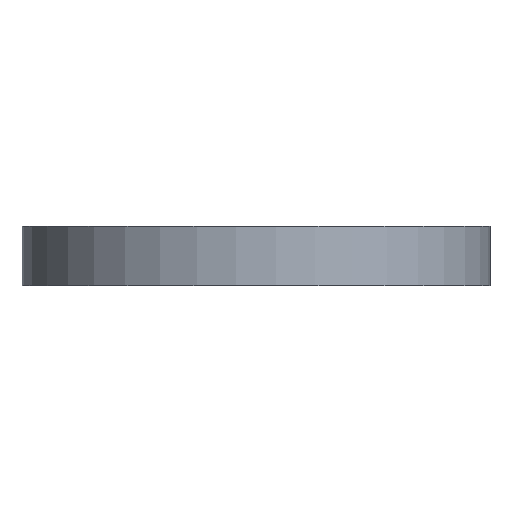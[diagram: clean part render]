
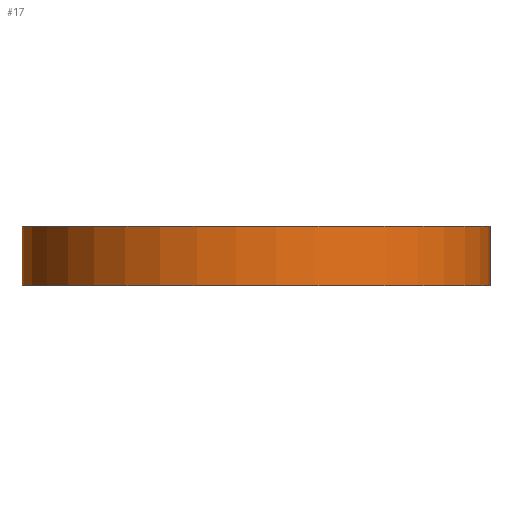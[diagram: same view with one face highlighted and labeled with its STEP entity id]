
A CAD part, left-side view. The second image highlights one B-rep face of the part: STEP entity #17.
In plain terms, the highlighted cylindrical face has radius 23.664 mm (diameter 47.329 mm), a partial arc.
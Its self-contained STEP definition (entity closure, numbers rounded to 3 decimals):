
#17 = ADVANCED_FACE('',(#18),#32,.T.);
#18 = FACE_BOUND('',#19,.F.);
#19 = EDGE_LOOP('',(#20,#55,#84,#112));
#20 = ORIENTED_EDGE('',*,*,#21,.T.);
#21 = EDGE_CURVE('',#22,#24,#26,.T.);
#22 = VERTEX_POINT('',#23);
#23 = CARTESIAN_POINT('',(8.788,21.972,26.));
#24 = VERTEX_POINT('',#25);
#25 = CARTESIAN_POINT('',(8.788,21.972,32.));
#26 = SURFACE_CURVE('',#27,(#31,#43),.PCURVE_S1.);
#27 = LINE('',#28,#29);
#28 = CARTESIAN_POINT('',(8.788,21.972,26.));
#29 = VECTOR('',#30,1.);
#30 = DIRECTION('',(0.,0.,1.));
#31 = PCURVE('',#32,#37);
#32 = CYLINDRICAL_SURFACE('',#33,23.664);
#33 = AXIS2_PLACEMENT_3D('',#34,#35,#36);
#34 = CARTESIAN_POINT('',(0.,0.,26.));
#35 = DIRECTION('',(-0.,-0.,-1.));
#36 = DIRECTION('',(0.371,0.928,-0.));
#37 = DEFINITIONAL_REPRESENTATION('',(#38),#42);
#38 = LINE('',#39,#40);
#39 = CARTESIAN_POINT('',(-0.,0.));
#40 = VECTOR('',#41,1.);
#41 = DIRECTION('',(-0.,-1.));
#42 = ( GEOMETRIC_REPRESENTATION_CONTEXT(2) 
PARAMETRIC_REPRESENTATION_CONTEXT() REPRESENTATION_CONTEXT('2D SPACE',''
  ) );
#43 = PCURVE('',#44,#49);
#44 = PLANE('',#45);
#45 = AXIS2_PLACEMENT_3D('',#46,#47,#48);
#46 = CARTESIAN_POINT('',(50.168,5.421,26.));
#47 = DIRECTION('',(-0.371,-0.928,0.));
#48 = DIRECTION('',(-0.928,0.371,0.));
#49 = DEFINITIONAL_REPRESENTATION('',(#50),#54);
#50 = LINE('',#51,#52);
#51 = CARTESIAN_POINT('',(44.567,0.));
#52 = VECTOR('',#53,1.);
#53 = DIRECTION('',(0.,-1.));
#54 = ( GEOMETRIC_REPRESENTATION_CONTEXT(2) 
PARAMETRIC_REPRESENTATION_CONTEXT() REPRESENTATION_CONTEXT('2D SPACE',''
  ) );
#55 = ORIENTED_EDGE('',*,*,#56,.T.);
#56 = EDGE_CURVE('',#24,#57,#59,.T.);
#57 = VERTEX_POINT('',#58);
#58 = CARTESIAN_POINT('',(8.788,-21.972,32.));
#59 = SURFACE_CURVE('',#60,(#65,#72),.PCURVE_S1.);
#60 = CIRCLE('',#61,23.664);
#61 = AXIS2_PLACEMENT_3D('',#62,#63,#64);
#62 = CARTESIAN_POINT('',(0.,0.,32.));
#63 = DIRECTION('',(0.,0.,1.));
#64 = DIRECTION('',(0.371,0.928,-0.));
#65 = PCURVE('',#32,#66);
#66 = DEFINITIONAL_REPRESENTATION('',(#67),#71);
#67 = LINE('',#68,#69);
#68 = CARTESIAN_POINT('',(-0.,-6.));
#69 = VECTOR('',#70,1.);
#70 = DIRECTION('',(-1.,0.));
#71 = ( GEOMETRIC_REPRESENTATION_CONTEXT(2) 
PARAMETRIC_REPRESENTATION_CONTEXT() REPRESENTATION_CONTEXT('2D SPACE',''
  ) );
#72 = PCURVE('',#73,#78);
#73 = PLANE('',#74);
#74 = AXIS2_PLACEMENT_3D('',#75,#76,#77);
#75 = CARTESIAN_POINT('',(13.296,0.,32.));
#76 = DIRECTION('',(0.,0.,1.));
#77 = DIRECTION('',(1.,0.,-0.));
#78 = DEFINITIONAL_REPRESENTATION('',(#79),#83);
#79 = CIRCLE('',#80,23.664);
#80 = AXIS2_PLACEMENT_2D('',#81,#82);
#81 = CARTESIAN_POINT('',(-13.296,0.));
#82 = DIRECTION('',(0.371,0.928));
#83 = ( GEOMETRIC_REPRESENTATION_CONTEXT(2) 
PARAMETRIC_REPRESENTATION_CONTEXT() REPRESENTATION_CONTEXT('2D SPACE',''
  ) );
#84 = ORIENTED_EDGE('',*,*,#85,.F.);
#85 = EDGE_CURVE('',#86,#57,#88,.T.);
#86 = VERTEX_POINT('',#87);
#87 = CARTESIAN_POINT('',(8.788,-21.972,26.));
#88 = SURFACE_CURVE('',#89,(#93,#100),.PCURVE_S1.);
#89 = LINE('',#90,#91);
#90 = CARTESIAN_POINT('',(8.788,-21.972,26.));
#91 = VECTOR('',#92,1.);
#92 = DIRECTION('',(0.,0.,1.));
#93 = PCURVE('',#32,#94);
#94 = DEFINITIONAL_REPRESENTATION('',(#95),#99);
#95 = LINE('',#96,#97);
#96 = CARTESIAN_POINT('',(-3.903,0.));
#97 = VECTOR('',#98,1.);
#98 = DIRECTION('',(-0.,-1.));
#99 = ( GEOMETRIC_REPRESENTATION_CONTEXT(2) 
PARAMETRIC_REPRESENTATION_CONTEXT() REPRESENTATION_CONTEXT('2D SPACE',''
  ) );
#100 = PCURVE('',#101,#106);
#101 = PLANE('',#102);
#102 = AXIS2_PLACEMENT_3D('',#103,#104,#105);
#103 = CARTESIAN_POINT('',(8.788,-21.972,26.));
#104 = DIRECTION('',(-0.371,0.928,0.));
#105 = DIRECTION('',(0.928,0.371,0.));
#106 = DEFINITIONAL_REPRESENTATION('',(#107),#111);
#107 = LINE('',#108,#109);
#108 = CARTESIAN_POINT('',(0.,0.));
#109 = VECTOR('',#110,1.);
#110 = DIRECTION('',(0.,-1.));
#111 = ( GEOMETRIC_REPRESENTATION_CONTEXT(2) 
PARAMETRIC_REPRESENTATION_CONTEXT() REPRESENTATION_CONTEXT('2D SPACE',''
  ) );
#112 = ORIENTED_EDGE('',*,*,#113,.F.);
#113 = EDGE_CURVE('',#22,#86,#114,.T.);
#114 = SURFACE_CURVE('',#115,(#120,#127),.PCURVE_S1.);
#115 = CIRCLE('',#116,23.664);
#116 = AXIS2_PLACEMENT_3D('',#117,#118,#119);
#117 = CARTESIAN_POINT('',(0.,0.,26.)
  );
#118 = DIRECTION('',(0.,0.,1.));
#119 = DIRECTION('',(0.371,0.928,-0.));
#120 = PCURVE('',#32,#121);
#121 = DEFINITIONAL_REPRESENTATION('',(#122),#126);
#122 = LINE('',#123,#124);
#123 = CARTESIAN_POINT('',(-0.,0.));
#124 = VECTOR('',#125,1.);
#125 = DIRECTION('',(-1.,0.));
#126 = ( GEOMETRIC_REPRESENTATION_CONTEXT(2) 
PARAMETRIC_REPRESENTATION_CONTEXT() REPRESENTATION_CONTEXT('2D SPACE',''
  ) );
#127 = PCURVE('',#128,#133);
#128 = PLANE('',#129);
#129 = AXIS2_PLACEMENT_3D('',#130,#131,#132);
#130 = CARTESIAN_POINT('',(13.296,0.,26.));
#131 = DIRECTION('',(0.,0.,1.));
#132 = DIRECTION('',(1.,0.,-0.));
#133 = DEFINITIONAL_REPRESENTATION('',(#134),#138);
#134 = CIRCLE('',#135,23.664);
#135 = AXIS2_PLACEMENT_2D('',#136,#137);
#136 = CARTESIAN_POINT('',(-13.296,0.));
#137 = DIRECTION('',(0.371,0.928));
#138 = ( GEOMETRIC_REPRESENTATION_CONTEXT(2) 
PARAMETRIC_REPRESENTATION_CONTEXT() REPRESENTATION_CONTEXT('2D SPACE',''
  ) );
